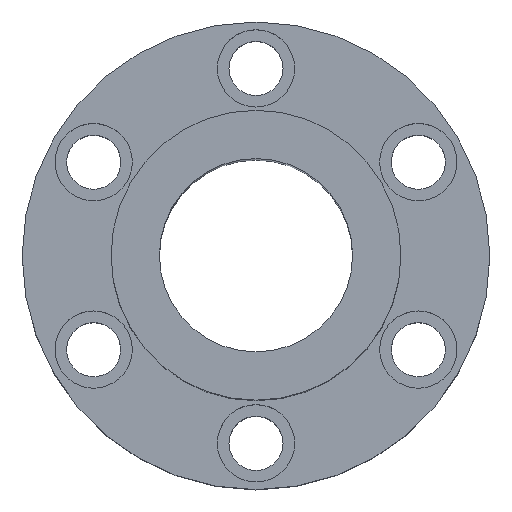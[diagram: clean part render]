
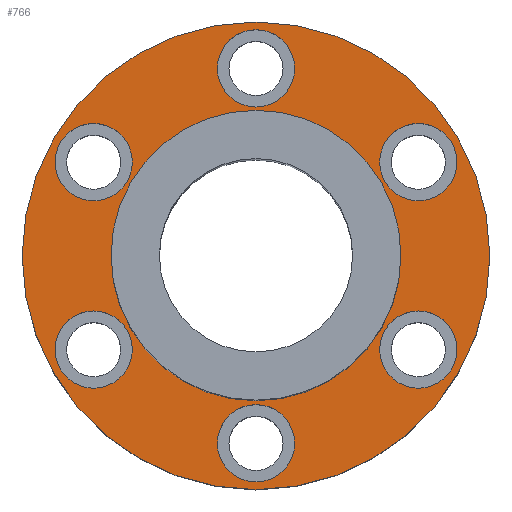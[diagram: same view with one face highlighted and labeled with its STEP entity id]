
A CAD part, top view. The second image highlights one B-rep face of the part: STEP entity #766.
In plain terms, the highlighted planar face has unit normal (0, 0, 1).
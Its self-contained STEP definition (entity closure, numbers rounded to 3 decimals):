
#1=CARTESIAN_POINT('',(0.,0.,24.5));
#2=DIRECTION('',(0.,0.,-1.));
#3=DIRECTION('',(-1.,0.,0.));
#4=AXIS2_PLACEMENT_3D('',#1,#2,#3);
#6=CARTESIAN_POINT('',(0.,0.,24.5));
#7=DIRECTION('',(0.,0.,-1.));
#8=DIRECTION('',(1.,0.,0.));
#9=AXIS2_PLACEMENT_3D('',#6,#7,#8);
#11=CARTESIAN_POINT('',(0.,0.,24.5));
#12=DIRECTION('',(0.,0.,1.));
#13=DIRECTION('',(1.,0.,0.));
#14=AXIS2_PLACEMENT_3D('',#11,#12,#13);
#16=CARTESIAN_POINT('',(0.,0.,24.5));
#17=DIRECTION('',(0.,0.,1.));
#18=DIRECTION('',(0.866,0.5,0.));
#19=AXIS2_PLACEMENT_3D('',#16,#17,#18);
#21=CARTESIAN_POINT('',(0.,0.,24.5));
#22=DIRECTION('',(0.,0.,1.));
#23=DIRECTION('',(0.,1.,0.));
#24=AXIS2_PLACEMENT_3D('',#21,#22,#23);
#26=CARTESIAN_POINT('',(0.,0.,24.5));
#27=DIRECTION('',(0.,0.,1.));
#28=DIRECTION('',(-0.866,0.5,0.));
#29=AXIS2_PLACEMENT_3D('',#26,#27,#28);
#31=CARTESIAN_POINT('',(0.,0.,24.5));
#32=DIRECTION('',(0.,0.,1.));
#33=DIRECTION('',(-1.,0.,0.));
#34=AXIS2_PLACEMENT_3D('',#31,#32,#33);
#36=CARTESIAN_POINT('',(0.,0.,24.5));
#37=DIRECTION('',(0.,0.,1.));
#38=DIRECTION('',(-0.866,-0.5,0.));
#39=AXIS2_PLACEMENT_3D('',#36,#37,#38);
#41=CARTESIAN_POINT('',(0.,0.,24.5));
#42=DIRECTION('',(0.,0.,1.));
#43=DIRECTION('',(0.,-1.,0.));
#44=AXIS2_PLACEMENT_3D('',#41,#42,#43);
#46=CARTESIAN_POINT('',(0.,0.,24.5));
#47=DIRECTION('',(0.,0.,1.));
#48=DIRECTION('',(0.866,-0.5,0.));
#49=AXIS2_PLACEMENT_3D('',#46,#47,#48);
#51=CARTESIAN_POINT('',(42.002,24.25,24.5));
#52=DIRECTION('',(0.,0.,1.));
#53=DIRECTION('',(-0.5,0.866,0.));
#54=AXIS2_PLACEMENT_3D('',#51,#52,#53);
#56=CARTESIAN_POINT('',(42.002,24.25,24.5));
#57=DIRECTION('',(0.,0.,1.));
#58=DIRECTION('',(-0.866,-0.5,0.));
#59=AXIS2_PLACEMENT_3D('',#56,#57,#58);
#61=CARTESIAN_POINT('',(42.002,24.25,24.5));
#62=DIRECTION('',(0.,0.,1.));
#63=DIRECTION('',(0.5,-0.866,0.));
#64=AXIS2_PLACEMENT_3D('',#61,#62,#63);
#66=CARTESIAN_POINT('',(0.,48.5,24.5));
#67=DIRECTION('',(0.,0.,1.));
#68=DIRECTION('',(-1.,0.,0.));
#69=AXIS2_PLACEMENT_3D('',#66,#67,#68);
#71=CARTESIAN_POINT('',(0.,48.5,24.5));
#72=DIRECTION('',(0.,0.,1.));
#73=DIRECTION('',(0.,-1.,0.));
#74=AXIS2_PLACEMENT_3D('',#71,#72,#73);
#76=CARTESIAN_POINT('',(0.,48.5,24.5));
#77=DIRECTION('',(0.,0.,1.));
#78=DIRECTION('',(1.,0.,0.));
#79=AXIS2_PLACEMENT_3D('',#76,#77,#78);
#81=CARTESIAN_POINT('',(-42.002,24.25,24.5));
#82=DIRECTION('',(0.,0.,1.));
#83=DIRECTION('',(-0.5,-0.866,0.));
#84=AXIS2_PLACEMENT_3D('',#81,#82,#83);
#86=CARTESIAN_POINT('',(-42.002,24.25,24.5));
#87=DIRECTION('',(0.,0.,1.));
#88=DIRECTION('',(0.866,-0.5,0.));
#89=AXIS2_PLACEMENT_3D('',#86,#87,#88);
#91=CARTESIAN_POINT('',(-42.002,24.25,24.5));
#92=DIRECTION('',(0.,0.,1.));
#93=DIRECTION('',(0.5,0.866,0.));
#94=AXIS2_PLACEMENT_3D('',#91,#92,#93);
#96=CARTESIAN_POINT('',(-42.002,-24.25,24.5));
#97=DIRECTION('',(0.,0.,1.));
#98=DIRECTION('',(0.5,-0.866,0.));
#99=AXIS2_PLACEMENT_3D('',#96,#97,#98);
#101=CARTESIAN_POINT('',(-42.002,-24.25,24.5));
#102=DIRECTION('',(0.,0.,1.));
#103=DIRECTION('',(0.866,0.5,0.));
#104=AXIS2_PLACEMENT_3D('',#101,#102,#103);
#106=CARTESIAN_POINT('',(-42.002,-24.25,24.5));
#107=DIRECTION('',(0.,0.,1.));
#108=DIRECTION('',(-0.5,0.866,0.));
#109=AXIS2_PLACEMENT_3D('',#106,#107,#108);
#111=CARTESIAN_POINT('',(0.,-48.5,24.5));
#112=DIRECTION('',(0.,0.,1.));
#113=DIRECTION('',(1.,0.,0.));
#114=AXIS2_PLACEMENT_3D('',#111,#112,#113);
#116=CARTESIAN_POINT('',(0.,-48.5,24.5));
#117=DIRECTION('',(0.,0.,1.));
#118=DIRECTION('',(0.,1.,0.));
#119=AXIS2_PLACEMENT_3D('',#116,#117,#118);
#121=CARTESIAN_POINT('',(0.,-48.5,24.5));
#122=DIRECTION('',(0.,0.,1.));
#123=DIRECTION('',(-1.,0.,0.));
#124=AXIS2_PLACEMENT_3D('',#121,#122,#123);
#126=CARTESIAN_POINT('',(42.002,-24.25,24.5));
#127=DIRECTION('',(0.,0.,1.));
#128=DIRECTION('',(0.5,0.866,0.));
#129=AXIS2_PLACEMENT_3D('',#126,#127,#128);
#131=CARTESIAN_POINT('',(42.002,-24.25,24.5));
#132=DIRECTION('',(0.,0.,1.));
#133=DIRECTION('',(-0.866,0.5,0.));
#134=AXIS2_PLACEMENT_3D('',#131,#132,#133);
#136=CARTESIAN_POINT('',(42.002,-24.25,24.5));
#137=DIRECTION('',(0.,0.,1.));
#138=DIRECTION('',(-0.5,-0.866,0.));
#139=AXIS2_PLACEMENT_3D('',#136,#137,#138);
#529=CARTESIAN_POINT('',(-60.5,0.,24.5));
#530=CARTESIAN_POINT('',(60.5,0.,24.5));
#531=VERTEX_POINT('',#529);
#532=VERTEX_POINT('',#530);
#533=CARTESIAN_POINT('',(47.002,15.59,24.5));
#534=CARTESIAN_POINT('',(37.002,32.91,24.5));
#535=VERTEX_POINT('',#533);
#536=VERTEX_POINT('',#534);
#537=CARTESIAN_POINT('',(10.,48.5,24.5));
#538=CARTESIAN_POINT('',(-10.,48.5,24.5));
#539=VERTEX_POINT('',#537);
#540=VERTEX_POINT('',#538);
#541=CARTESIAN_POINT('',(-37.002,32.91,24.5));
#542=CARTESIAN_POINT('',(-47.002,15.59,24.5));
#543=VERTEX_POINT('',#541);
#544=VERTEX_POINT('',#542);
#545=CARTESIAN_POINT('',(-47.002,-15.59,24.5));
#546=CARTESIAN_POINT('',(-37.002,-32.91,24.5));
#547=VERTEX_POINT('',#545);
#548=VERTEX_POINT('',#546);
#549=CARTESIAN_POINT('',(-10.,-48.5,24.5));
#550=CARTESIAN_POINT('',(10.,-48.5,24.5));
#551=VERTEX_POINT('',#549);
#552=VERTEX_POINT('',#550);
#553=CARTESIAN_POINT('',(37.002,-32.91,24.5));
#554=CARTESIAN_POINT('',(47.002,-15.59,24.5));
#555=VERTEX_POINT('',#553);
#556=VERTEX_POINT('',#554);
#649=CARTESIAN_POINT('',(37.5,0.,24.5));
#650=CARTESIAN_POINT('',(32.477,18.749,24.5));
#651=VERTEX_POINT('',#649);
#652=VERTEX_POINT('',#650);
#653=CARTESIAN_POINT('',(33.341,19.252,24.5));
#654=VERTEX_POINT('',#653);
#655=CARTESIAN_POINT('',(0.001,37.5,24.5));
#656=VERTEX_POINT('',#655);
#657=CARTESIAN_POINT('',(-0.003,38.5,24.5));
#658=VERTEX_POINT('',#657);
#659=CARTESIAN_POINT('',(-32.475,18.751,24.5));
#660=VERTEX_POINT('',#659);
#661=CARTESIAN_POINT('',(-33.343,19.248,24.5));
#662=VERTEX_POINT('',#661);
#663=CARTESIAN_POINT('',(-37.5,0.,24.5));
#664=VERTEX_POINT('',#663);
#665=CARTESIAN_POINT('',(-32.477,-18.749,24.5));
#666=VERTEX_POINT('',#665);
#667=CARTESIAN_POINT('',(-33.341,-19.252,24.5));
#668=VERTEX_POINT('',#667);
#669=CARTESIAN_POINT('',(-0.001,-37.5,24.5));
#670=VERTEX_POINT('',#669);
#671=CARTESIAN_POINT('',(0.003,-38.5,24.5));
#672=VERTEX_POINT('',#671);
#673=CARTESIAN_POINT('',(32.475,-18.751,24.5));
#674=VERTEX_POINT('',#673);
#675=CARTESIAN_POINT('',(33.343,-19.248,24.5));
#676=VERTEX_POINT('',#675);
#689=CARTESIAN_POINT('',(0.,0.,24.5));
#690=DIRECTION('',(0.,0.,1.));
#691=DIRECTION('',(1.,0.,0.));
#692=AXIS2_PLACEMENT_3D('',#689,#690,#691);
#693=PLANE('',#692);
#695=ORIENTED_EDGE('',*,*,#694,.T.);
#697=ORIENTED_EDGE('',*,*,#696,.T.);
#698=EDGE_LOOP('',(#695,#697));
#699=FACE_OUTER_BOUND('',#698,.F.);
#701=ORIENTED_EDGE('',*,*,#700,.T.);
#703=ORIENTED_EDGE('',*,*,#702,.T.);
#705=ORIENTED_EDGE('',*,*,#704,.T.);
#707=ORIENTED_EDGE('',*,*,#706,.T.);
#709=ORIENTED_EDGE('',*,*,#708,.T.);
#711=ORIENTED_EDGE('',*,*,#710,.T.);
#713=ORIENTED_EDGE('',*,*,#712,.T.);
#715=ORIENTED_EDGE('',*,*,#714,.T.);
#716=EDGE_LOOP('',(#701,#703,#705,#707,#709,#711,#713,#715));
#717=FACE_BOUND('',#716,.F.);
#719=ORIENTED_EDGE('',*,*,#718,.T.);
#721=ORIENTED_EDGE('',*,*,#720,.T.);
#723=ORIENTED_EDGE('',*,*,#722,.T.);
#724=EDGE_LOOP('',(#719,#721,#723));
#725=FACE_BOUND('',#724,.F.);
#727=ORIENTED_EDGE('',*,*,#726,.T.);
#729=ORIENTED_EDGE('',*,*,#728,.T.);
#731=ORIENTED_EDGE('',*,*,#730,.T.);
#732=EDGE_LOOP('',(#727,#729,#731));
#733=FACE_BOUND('',#732,.F.);
#735=ORIENTED_EDGE('',*,*,#734,.T.);
#737=ORIENTED_EDGE('',*,*,#736,.T.);
#739=ORIENTED_EDGE('',*,*,#738,.T.);
#740=EDGE_LOOP('',(#735,#737,#739));
#741=FACE_BOUND('',#740,.F.);
#743=ORIENTED_EDGE('',*,*,#742,.T.);
#745=ORIENTED_EDGE('',*,*,#744,.T.);
#747=ORIENTED_EDGE('',*,*,#746,.T.);
#748=EDGE_LOOP('',(#743,#745,#747));
#749=FACE_BOUND('',#748,.F.);
#751=ORIENTED_EDGE('',*,*,#750,.T.);
#753=ORIENTED_EDGE('',*,*,#752,.T.);
#755=ORIENTED_EDGE('',*,*,#754,.T.);
#756=EDGE_LOOP('',(#751,#753,#755));
#757=FACE_BOUND('',#756,.F.);
#759=ORIENTED_EDGE('',*,*,#758,.T.);
#761=ORIENTED_EDGE('',*,*,#760,.T.);
#763=ORIENTED_EDGE('',*,*,#762,.T.);
#764=EDGE_LOOP('',(#759,#761,#763));
#765=FACE_BOUND('',#764,.F.);
#766=ADVANCED_FACE('',(#699,#717,#725,#733,#741,#749,#757,#765),#693,.T.);
#5=CIRCLE('',#4,60.5);
#10=CIRCLE('',#9,60.5);
#15=CIRCLE('',#14,37.5);
#20=CIRCLE('',#19,37.5);
#25=CIRCLE('',#24,37.5);
#30=CIRCLE('',#29,37.5);
#35=CIRCLE('',#34,37.5);
#40=CIRCLE('',#39,37.5);
#45=CIRCLE('',#44,37.5);
#50=CIRCLE('',#49,37.5);
#55=CIRCLE('',#54,10.);
#60=CIRCLE('',#59,10.);
#65=CIRCLE('',#64,10.);
#70=CIRCLE('',#69,10.);
#75=CIRCLE('',#74,10.);
#80=CIRCLE('',#79,10.);
#85=CIRCLE('',#84,10.);
#90=CIRCLE('',#89,10.);
#95=CIRCLE('',#94,10.);
#100=CIRCLE('',#99,10.);
#105=CIRCLE('',#104,10.);
#110=CIRCLE('',#109,10.);
#115=CIRCLE('',#114,10.);
#120=CIRCLE('',#119,10.);
#125=CIRCLE('',#124,10.);
#130=CIRCLE('',#129,10.);
#135=CIRCLE('',#134,10.);
#140=CIRCLE('',#139,10.);
#694=EDGE_CURVE('',#531,#532,#5,.T.);
#696=EDGE_CURVE('',#532,#531,#10,.T.);
#700=EDGE_CURVE('',#651,#652,#15,.T.);
#702=EDGE_CURVE('',#652,#656,#20,.T.);
#704=EDGE_CURVE('',#656,#660,#25,.T.);
#706=EDGE_CURVE('',#660,#664,#30,.T.);
#708=EDGE_CURVE('',#664,#666,#35,.T.);
#710=EDGE_CURVE('',#666,#670,#40,.T.);
#712=EDGE_CURVE('',#670,#674,#45,.T.);
#714=EDGE_CURVE('',#674,#651,#50,.T.);
#718=EDGE_CURVE('',#536,#654,#55,.T.);
#720=EDGE_CURVE('',#654,#535,#60,.T.);
#722=EDGE_CURVE('',#535,#536,#65,.T.);
#726=EDGE_CURVE('',#540,#658,#70,.T.);
#728=EDGE_CURVE('',#658,#539,#75,.T.);
#730=EDGE_CURVE('',#539,#540,#80,.T.);
#734=EDGE_CURVE('',#544,#662,#85,.T.);
#736=EDGE_CURVE('',#662,#543,#90,.T.);
#738=EDGE_CURVE('',#543,#544,#95,.T.);
#742=EDGE_CURVE('',#548,#668,#100,.T.);
#744=EDGE_CURVE('',#668,#547,#105,.T.);
#746=EDGE_CURVE('',#547,#548,#110,.T.);
#750=EDGE_CURVE('',#552,#672,#115,.T.);
#752=EDGE_CURVE('',#672,#551,#120,.T.);
#754=EDGE_CURVE('',#551,#552,#125,.T.);
#758=EDGE_CURVE('',#556,#676,#130,.T.);
#760=EDGE_CURVE('',#676,#555,#135,.T.);
#762=EDGE_CURVE('',#555,#556,#140,.T.);
